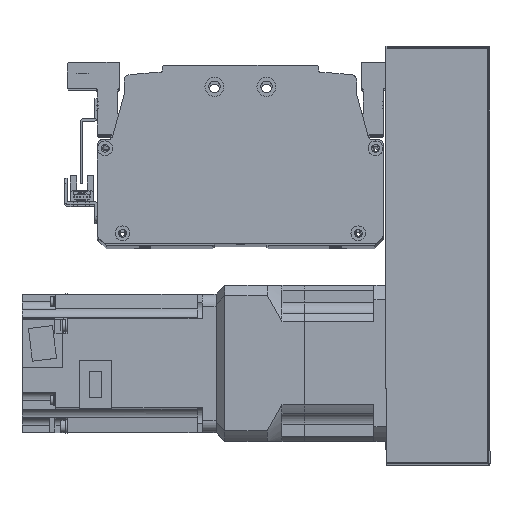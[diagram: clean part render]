
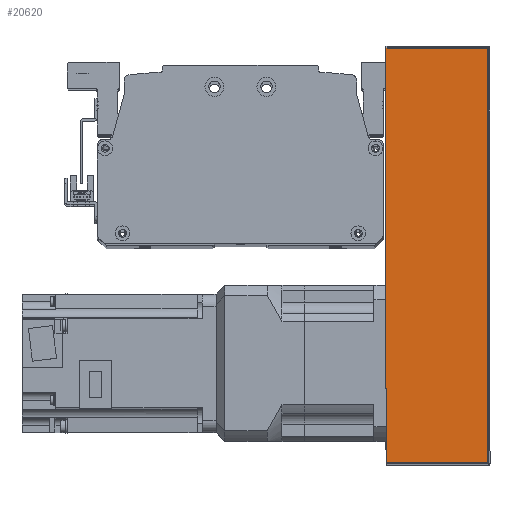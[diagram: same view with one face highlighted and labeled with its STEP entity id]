
A CAD part, top view. The second image highlights one B-rep face of the part: STEP entity #20620.
In plain terms, the highlighted planar face has unit normal (0, 0, 1) as drawn and (0, 1, 0) by its records, which use the part's own axes.
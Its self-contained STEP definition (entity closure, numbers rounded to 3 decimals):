
#552=PLANE('',#22464);
#1683=LINE('',#32765,#3343);
#1702=LINE('',#32849,#3362);
#1704=LINE('',#32859,#3364);
#1705=LINE('',#32861,#3365);
#3343=VECTOR('',#26642,10.);
#3362=VECTOR('',#26755,10.);
#3364=VECTOR('',#26769,10.);
#3365=VECTOR('',#26772,10.);
#5341=FACE_OUTER_BOUND('',#6761,.T.);
#6761=EDGE_LOOP('',(#16182,#16183,#16184,#16185));
#9617=VERTEX_POINT('',#32762);
#9618=VERTEX_POINT('',#32764);
#9635=VERTEX_POINT('',#32843);
#9638=VERTEX_POINT('',#32855);
#11969=EDGE_CURVE('',#9618,#9617,#1683,.T.);
#12012=EDGE_CURVE('',#9635,#9618,#1702,.T.);
#12017=EDGE_CURVE('',#9617,#9638,#1704,.T.);
#12018=EDGE_CURVE('',#9638,#9635,#1705,.T.);
#16182=ORIENTED_EDGE('',*,*,#12012,.T.);
#16183=ORIENTED_EDGE('',*,*,#11969,.T.);
#16184=ORIENTED_EDGE('',*,*,#12017,.T.);
#16185=ORIENTED_EDGE('',*,*,#12018,.T.);
#20620=ADVANCED_FACE('',(#5341),#552,.F.);
#22464=AXIS2_PLACEMENT_3D('',#32868,#26781,#26782);
#26642=DIRECTION('',(-1.,0.,0.));
#26755=DIRECTION('',(0.,0.,-1.));
#26769=DIRECTION('',(0.,0.,1.));
#26772=DIRECTION('',(1.,0.,0.));
#26781=DIRECTION('center_axis',(0.,-1.,0.));
#26782=DIRECTION('ref_axis',(-1.,0.,0.));
#32762=CARTESIAN_POINT('',(-120.,51.,-30.));
#32764=CARTESIAN_POINT('',(120.,51.,-30.));
#32765=CARTESIAN_POINT('',(-121.,51.,-30.));
#32843=CARTESIAN_POINT('',(120.,51.,29.));
#32849=CARTESIAN_POINT('',(120.,51.,0.));
#32855=CARTESIAN_POINT('',(-120.,51.,29.));
#32859=CARTESIAN_POINT('',(-120.,51.,0.));
#32861=CARTESIAN_POINT('',(60.5,51.,29.));
#32868=CARTESIAN_POINT('Origin',(121.,51.,0.));
